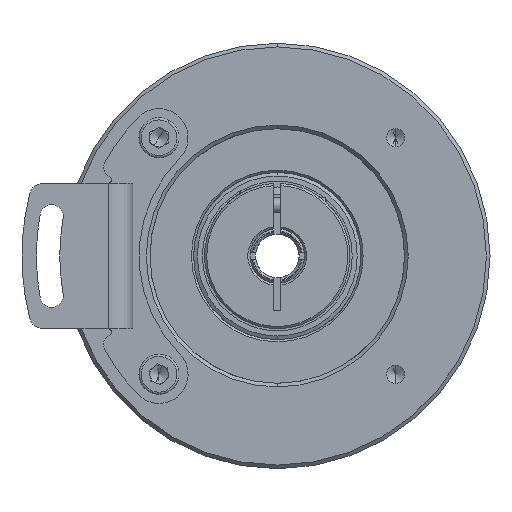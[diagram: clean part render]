
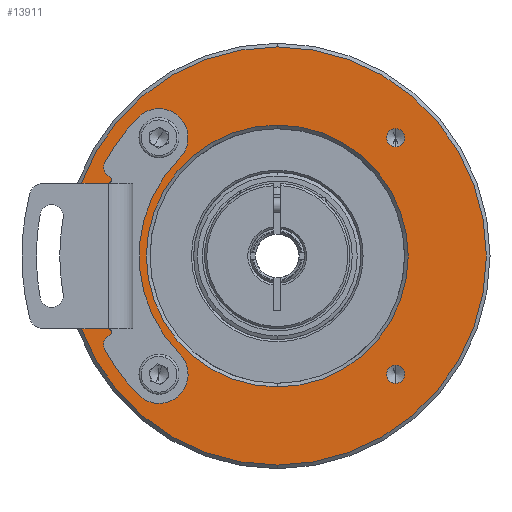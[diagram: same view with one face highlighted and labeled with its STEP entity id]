
A CAD part, front view. The second image highlights one B-rep face of the part: STEP entity #13911.
In plain terms, the highlighted planar face has unit normal (0, -1, 0).
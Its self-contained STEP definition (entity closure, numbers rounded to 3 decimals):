
#344 = DIRECTION ( 'NONE',  ( 0., -1., 0. ) ) ;
#661 = DIRECTION ( 'NONE',  ( 0., 0., -1. ) ) ;
#752 = CIRCLE ( 'NONE', #6328, 1.25 ) ;
#836 = CARTESIAN_POINT ( 'NONE',  ( -16.263, 0., 15.013 ) ) ;
#1303 = CARTESIAN_POINT ( 'NONE',  ( -16.263, 0., -16.263 ) ) ;
#1353 = EDGE_CURVE ( 'NONE', #9515, #18323, #31471, .T. ) ;
#2015 = ORIENTED_EDGE ( 'NONE', *, *, #30357, .F. ) ;
#2122 = AXIS2_PLACEMENT_3D ( 'NONE', #5649, #344, #24929 ) ;
#2224 = AXIS2_PLACEMENT_3D ( 'NONE', #17035, #4410, #19391 ) ;
#2279 = CARTESIAN_POINT ( 'NONE',  ( -16.263, 0., 17.513 ) ) ;
#2295 = VERTEX_POINT ( 'NONE', #29084 ) ;
#2339 = DIRECTION ( 'NONE',  ( 0., 0., -1. ) ) ;
#2453 = AXIS2_PLACEMENT_3D ( 'NONE', #21925, #24018, #26925 ) ;
#3073 = AXIS2_PLACEMENT_3D ( 'NONE', #31476, #16612, #23540 ) ;
#3518 = FACE_BOUND ( 'NONE', #27982, .T. ) ;
#3537 = AXIS2_PLACEMENT_3D ( 'NONE', #19524, #17068, #27240 ) ;
#3551 = ORIENTED_EDGE ( 'NONE', *, *, #29968, .F. ) ;
#3749 = CIRCLE ( 'NONE', #3073, 1.25 ) ;
#4195 = CARTESIAN_POINT ( 'NONE',  ( 0., 0., 0. ) ) ;
#4410 = DIRECTION ( 'NONE',  ( 0., -1., 0. ) ) ;
#4642 = CARTESIAN_POINT ( 'NONE',  ( 0., 0., 0. ) ) ;
#4657 = FACE_BOUND ( 'NONE', #10078, .T. ) ;
#4663 = CIRCLE ( 'NONE', #23364, 1.25 ) ;
#5071 = EDGE_LOOP ( 'NONE', ( #29743, #28823 ) ) ;
#5264 = VERTEX_POINT ( 'NONE', #2279 ) ;
#5554 = CARTESIAN_POINT ( 'NONE',  ( -16.263, 0., -16.263 ) ) ;
#5649 = CARTESIAN_POINT ( 'NONE',  ( 16.263, 0., 16.263 ) ) ;
#6328 = AXIS2_PLACEMENT_3D ( 'NONE', #5554, #22850, #661 ) ;
#6616 = EDGE_CURVE ( 'NONE', #6947, #15701, #31728, .T. ) ;
#6667 = DIRECTION ( 'NONE',  ( 0., 1., 0. ) ) ;
#6705 = CARTESIAN_POINT ( 'NONE',  ( -16.263, 0., 16.263 ) ) ;
#6947 = VERTEX_POINT ( 'NONE', #26526 ) ;
#7298 = EDGE_CURVE ( 'NONE', #18323, #9515, #24275, .T. ) ;
#9366 = EDGE_LOOP ( 'NONE', ( #17501, #20324 ) ) ;
#9444 = AXIS2_PLACEMENT_3D ( 'NONE', #6705, #26486, #11684 ) ;
#9515 = VERTEX_POINT ( 'NONE', #24940 ) ;
#9854 = CIRCLE ( 'NONE', #19157, 18. ) ;
#10078 = EDGE_LOOP ( 'NONE', ( #11894, #2015 ) ) ;
#10443 = CARTESIAN_POINT ( 'NONE',  ( -16.263, 0., -15.013 ) ) ;
#10600 = PLANE ( 'NONE',  #17936 ) ;
#11051 = CARTESIAN_POINT ( 'NONE',  ( 0., 0., 0. ) ) ;
#11684 = DIRECTION ( 'NONE',  ( 0., 0., -1. ) ) ;
#11894 = ORIENTED_EDGE ( 'NONE', *, *, #22753, .F. ) ;
#11934 = CARTESIAN_POINT ( 'NONE',  ( 0., 0., -18. ) ) ;
#12202 = AXIS2_PLACEMENT_3D ( 'NONE', #1303, #23726, #16145 ) ;
#12213 = DIRECTION ( 'NONE',  ( 0., 0., -1. ) ) ;
#12516 = CARTESIAN_POINT ( 'NONE',  ( 16.263, 0., 17.513 ) ) ;
#12990 = DIRECTION ( 'NONE',  ( 0., -1., 0. ) ) ;
#13490 = VERTEX_POINT ( 'NONE', #28392 ) ;
#13911 = ADVANCED_FACE ( 'NONE', ( #3518, #22451, #17804, #4657, #29452, #26696 ), #10600, .T. ) ;
#14973 = VERTEX_POINT ( 'NONE', #11934 ) ;
#15033 = CARTESIAN_POINT ( 'NONE',  ( -16.263, 0., -17.513 ) ) ;
#15701 = VERTEX_POINT ( 'NONE', #23321 ) ;
#16145 = DIRECTION ( 'NONE',  ( 0., 0., -1. ) ) ;
#16283 = CIRCLE ( 'NONE', #31758, 18. ) ;
#16612 = DIRECTION ( 'NONE',  ( 0., -1., 0. ) ) ;
#17035 = CARTESIAN_POINT ( 'NONE',  ( 0., 0., 0. ) ) ;
#17068 = DIRECTION ( 'NONE',  ( 0., -1., 0. ) ) ;
#17153 = DIRECTION ( 'NONE',  ( 0., -1., 0. ) ) ;
#17501 = ORIENTED_EDGE ( 'NONE', *, *, #31854, .F. ) ;
#17804 = FACE_BOUND ( 'NONE', #24235, .T. ) ;
#17936 = AXIS2_PLACEMENT_3D ( 'NONE', #25649, #12990, #18174 ) ;
#18174 = DIRECTION ( 'NONE',  ( 0., 0., -1. ) ) ;
#18299 = DIRECTION ( 'NONE',  ( 0., 0., -1. ) ) ;
#18323 = VERTEX_POINT ( 'NONE', #28866 ) ;
#18376 = CIRCLE ( 'NONE', #9444, 1.25 ) ;
#18554 = VERTEX_POINT ( 'NONE', #10443 ) ;
#19157 = AXIS2_PLACEMENT_3D ( 'NONE', #11051, #25968, #18299 ) ;
#19314 = VERTEX_POINT ( 'NONE', #15033 ) ;
#19391 = DIRECTION ( 'NONE',  ( 0., 0., -1. ) ) ;
#19524 = CARTESIAN_POINT ( 'NONE',  ( -16.263, 0., 16.263 ) ) ;
#19857 = EDGE_CURVE ( 'NONE', #2295, #14973, #9854, .T. ) ;
#20078 = CIRCLE ( 'NONE', #12202, 1.25 ) ;
#20324 = ORIENTED_EDGE ( 'NONE', *, *, #28624, .F. ) ;
#21137 = DIRECTION ( 'NONE',  ( 0., 0., -1. ) ) ;
#21234 = EDGE_CURVE ( 'NONE', #30914, #13490, #28260, .T. ) ;
#21925 = CARTESIAN_POINT ( 'NONE',  ( 16.263, 0., -16.263 ) ) ;
#22451 = FACE_BOUND ( 'NONE', #9366, .T. ) ;
#22635 = VERTEX_POINT ( 'NONE', #836 ) ;
#22753 = EDGE_CURVE ( 'NONE', #19314, #18554, #752, .T. ) ;
#22850 = DIRECTION ( 'NONE',  ( 0., -1., 0. ) ) ;
#23321 = CARTESIAN_POINT ( 'NONE',  ( 16.263, 0., -17.513 ) ) ;
#23364 = AXIS2_PLACEMENT_3D ( 'NONE', #32003, #17153, #2339 ) ;
#23436 = ORIENTED_EDGE ( 'NONE', *, *, #6616, .F. ) ;
#23525 = ORIENTED_EDGE ( 'NONE', *, *, #19857, .T. ) ;
#23540 = DIRECTION ( 'NONE',  ( 0., 0., -1. ) ) ;
#23726 = DIRECTION ( 'NONE',  ( 0., -1., 0. ) ) ;
#23912 = EDGE_CURVE ( 'NONE', #15701, #6947, #3749, .T. ) ;
#24018 = DIRECTION ( 'NONE',  ( 0., -1., 0. ) ) ;
#24235 = EDGE_LOOP ( 'NONE', ( #3551, #27750 ) ) ;
#24275 = CIRCLE ( 'NONE', #24885, 28.75 ) ;
#24885 = AXIS2_PLACEMENT_3D ( 'NONE', #4642, #29202, #12213 ) ;
#24929 = DIRECTION ( 'NONE',  ( 0., 0., -1. ) ) ;
#24940 = CARTESIAN_POINT ( 'NONE',  ( 0., 0., 28.75 ) ) ;
#24954 = ORIENTED_EDGE ( 'NONE', *, *, #23912, .F. ) ;
#25211 = EDGE_CURVE ( 'NONE', #14973, #2295, #16283, .T. ) ;
#25649 = CARTESIAN_POINT ( 'NONE',  ( 0., 0., 0. ) ) ;
#25968 = DIRECTION ( 'NONE',  ( 0., 1., 0. ) ) ;
#26486 = DIRECTION ( 'NONE',  ( 0., -1., 0. ) ) ;
#26526 = CARTESIAN_POINT ( 'NONE',  ( 16.263, 0., -15.013 ) ) ;
#26696 = FACE_OUTER_BOUND ( 'NONE', #5071, .T. ) ;
#26925 = DIRECTION ( 'NONE',  ( 0., 0., -1. ) ) ;
#27240 = DIRECTION ( 'NONE',  ( 0., 0., -1. ) ) ;
#27750 = ORIENTED_EDGE ( 'NONE', *, *, #21234, .F. ) ;
#27982 = EDGE_LOOP ( 'NONE', ( #30597, #23525 ) ) ;
#28260 = CIRCLE ( 'NONE', #2122, 1.25 ) ;
#28392 = CARTESIAN_POINT ( 'NONE',  ( 16.263, 0., 15.013 ) ) ;
#28624 = EDGE_CURVE ( 'NONE', #5264, #22635, #18376, .T. ) ;
#28823 = ORIENTED_EDGE ( 'NONE', *, *, #7298, .T. ) ;
#28866 = CARTESIAN_POINT ( 'NONE',  ( 0., 0., -28.75 ) ) ;
#29084 = CARTESIAN_POINT ( 'NONE',  ( 0., 0., 18. ) ) ;
#29097 = EDGE_LOOP ( 'NONE', ( #24954, #23436 ) ) ;
#29202 = DIRECTION ( 'NONE',  ( 0., -1., 0. ) ) ;
#29452 = FACE_BOUND ( 'NONE', #29097, .T. ) ;
#29528 = CIRCLE ( 'NONE', #3537, 1.25 ) ;
#29743 = ORIENTED_EDGE ( 'NONE', *, *, #1353, .T. ) ;
#29968 = EDGE_CURVE ( 'NONE', #13490, #30914, #4663, .T. ) ;
#30357 = EDGE_CURVE ( 'NONE', #18554, #19314, #20078, .T. ) ;
#30597 = ORIENTED_EDGE ( 'NONE', *, *, #25211, .T. ) ;
#30914 = VERTEX_POINT ( 'NONE', #12516 ) ;
#31471 = CIRCLE ( 'NONE', #2224, 28.75 ) ;
#31476 = CARTESIAN_POINT ( 'NONE',  ( 16.263, 0., -16.263 ) ) ;
#31728 = CIRCLE ( 'NONE', #2453, 1.25 ) ;
#31758 = AXIS2_PLACEMENT_3D ( 'NONE', #4195, #6667, #21137 ) ;
#31854 = EDGE_CURVE ( 'NONE', #22635, #5264, #29528, .T. ) ;
#32003 = CARTESIAN_POINT ( 'NONE',  ( 16.263, 0., 16.263 ) ) ;
